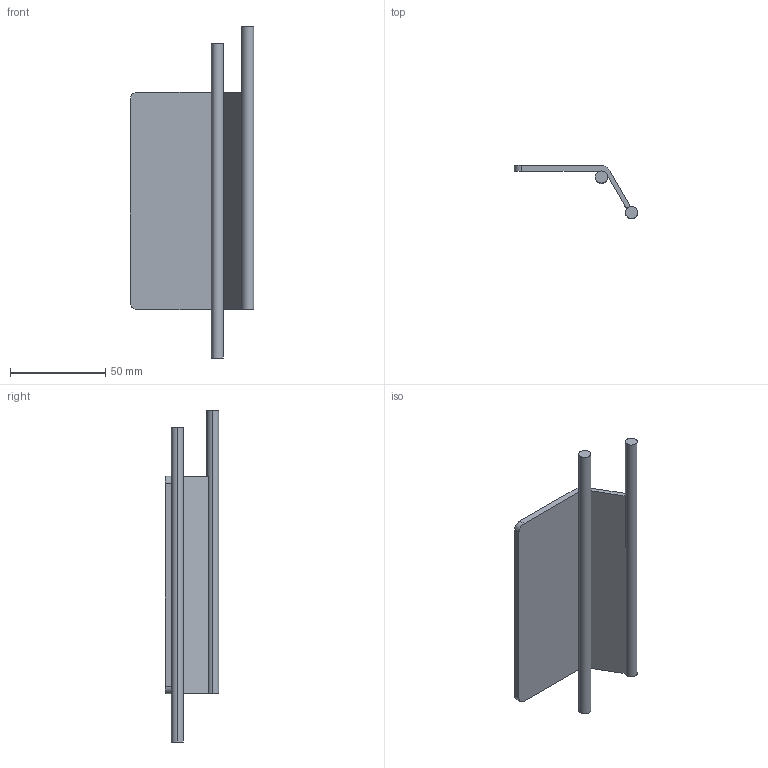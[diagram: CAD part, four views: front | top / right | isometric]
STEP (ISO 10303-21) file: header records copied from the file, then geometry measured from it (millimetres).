
FILE_DESCRIPTION (( 'STEP AP203' ), '1' );
FILE_NAME ('269-18-315.STEP', '2020-03-02T22:14:26', ( '' ), ( '' ), 'SwSTEP 2.0', 'SolidWorks 2017', '' );
FILE_SCHEMA (( 'CONFIG_CONTROL_DESIGN' ));
Length unit declared in the file: inch
Products named in the file (4): 269-18-315; Part Gate Plate Center Rod; Part Gate Plate; Part Gate Plate Edge Rod
Assembly tree (3 placements, depth 2):
  269-18-315
    Part Gate Plate
    Part Gate Plate Center Rod
    Part Gate Plate Edge Rod
Bounding box: 64.87 x 28.18 x 174.5 mm (x, y, z)
Volume: 33666.9 mm3; surface area: 23780.9 mm2
Topology: 3 solids, 3 shells, 20 faces, 42 edges, 28 vertices
Faces by surface type: plane 12, cylinder 8
Entity records: 964 total; most frequent: DIRECTION 110, CARTESIAN_POINT 96, ORIENTED_EDGE 84, AXIS2_PLACEMENT_3D 42, EDGE_CURVE 42, PERSON_AND_ORGANIZATION 35, VERTEX_POINT 28, COORDINATED_UNIVERSAL_TIME_OFFSET 26
